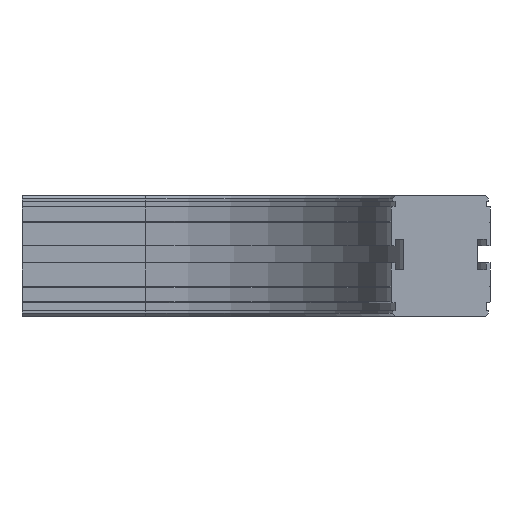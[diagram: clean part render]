
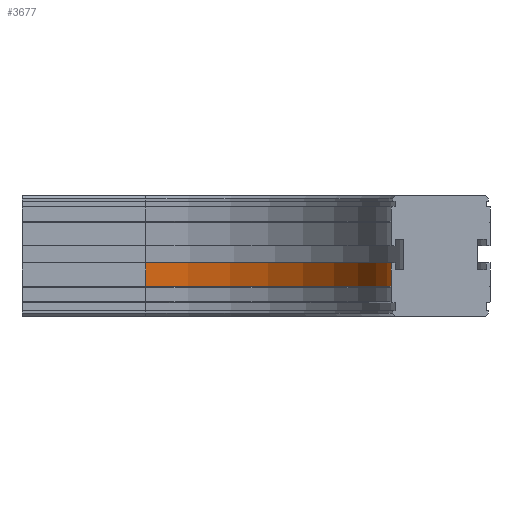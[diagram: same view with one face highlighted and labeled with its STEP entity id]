
A CAD part, front view. The second image highlights one B-rep face of the part: STEP entity #3677.
In plain terms, the highlighted cylindrical face has radius 159 mm (diameter 318 mm), a partial arc.
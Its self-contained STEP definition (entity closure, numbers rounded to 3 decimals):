
#2334=CARTESIAN_POINT('',(239.,-191.,-58.5));
#2335=VERTEX_POINT('',#2334);
#2365=CARTESIAN_POINT('',(239.,-191.,-43.5));
#2366=VERTEX_POINT('',#2365);
#2373=CARTESIAN_POINT('',(239.,-191.,-58.5));
#2374=DIRECTION('',(0.0,0.0,1.0));
#2375=VECTOR('',#2374,15.);
#2376=LINE('',#2373,#2375);
#2377=EDGE_CURVE('',#2335,#2366,#2376,.T.);
#3634=CARTESIAN_POINT('',(80.0,-32.0,-58.5));
#3635=VERTEX_POINT('',#3634);
#3636=CARTESIAN_POINT('',(80.0,-191.,-58.5));
#3637=DIRECTION('',(0.0,0.0,-1.0));
#3638=DIRECTION('',(-1.0,0.0,0.0));
#3639=AXIS2_PLACEMENT_3D('',#3636,#3637,#3638);
#3640=CIRCLE('',#3639,159.);
#3641=EDGE_CURVE('',#3635,#2335,#3640,.T.);
#3653=CARTESIAN_POINT('',(80.0,-191.,-51.));
#3654=DIRECTION('',(0.0,0.0,-1.0));
#3655=DIRECTION('',(-1.0,0.0,0.0));
#3656=AXIS2_PLACEMENT_3D('',#3653,#3654,#3655);
#3657=CYLINDRICAL_SURFACE('',#3656,159.);
#3658=ORIENTED_EDGE('',*,*,#2377,.T.);
#3659=CARTESIAN_POINT('',(80.0,-32.0,-43.5));
#3660=VERTEX_POINT('',#3659);
#3661=CARTESIAN_POINT('',(80.0,-191.,-43.5));
#3662=DIRECTION('',(0.0,0.0,-1.0));
#3663=DIRECTION('',(-1.0,0.0,0.0));
#3664=AXIS2_PLACEMENT_3D('',#3661,#3662,#3663);
#3665=CIRCLE('',#3664,159.);
#3666=EDGE_CURVE('',#3660,#2366,#3665,.T.);
#3667=ORIENTED_EDGE('',*,*,#3666,.F.);
#3668=CARTESIAN_POINT('',(80.0,-32.0,-58.5));
#3669=DIRECTION('',(0.0,0.0,1.0));
#3670=VECTOR('',#3669,15.);
#3671=LINE('',#3668,#3670);
#3672=EDGE_CURVE('',#3635,#3660,#3671,.T.);
#3673=ORIENTED_EDGE('',*,*,#3672,.F.);
#3674=ORIENTED_EDGE('',*,*,#3641,.T.);
#3675=EDGE_LOOP('',(#3658,#3667,#3673,#3674));
#3676=FACE_OUTER_BOUND('',#3675,.T.);
#3677=ADVANCED_FACE('',(#3676),#3657,.F.);
